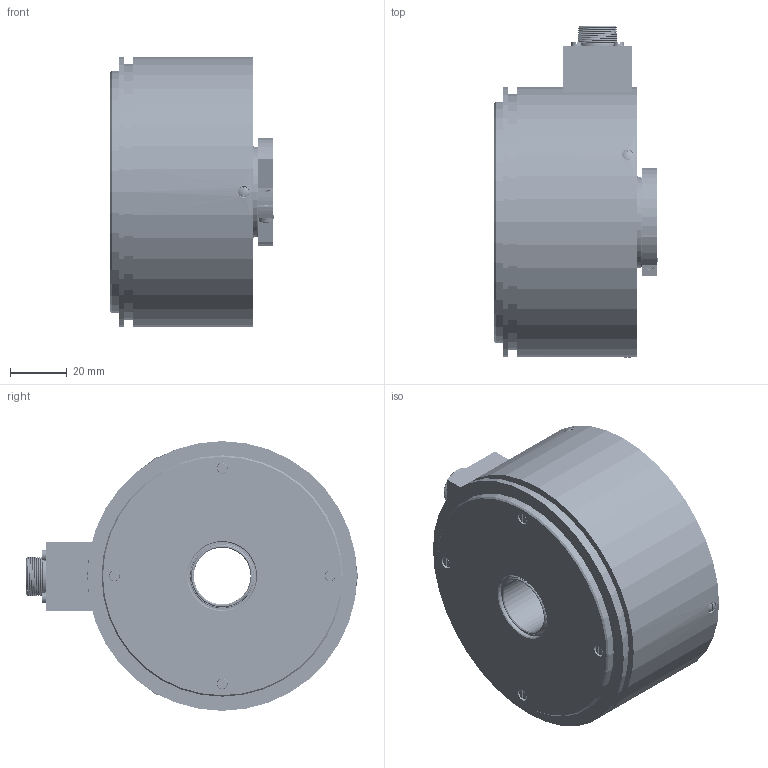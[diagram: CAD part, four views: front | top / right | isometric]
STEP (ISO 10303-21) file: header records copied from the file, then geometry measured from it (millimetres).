
FILE_DESCRIPTION (( 'STEP AP214' ), '1' );
FILE_NAME ('ËÈÐ-ÄÀ395À_èñï 1.STEP', '2017-05-23T08:57:23', ( '' ), ( '' ), 'SwSTEP 2.0', 'SolidWorks 2013', '' );
FILE_SCHEMA (( 'AUTOMOTIVE_DESIGN' ));
Length unit declared in the file: millimetre
Products named in the file (1): ËÈÐ-ÄÀ395À_èñï 1
Bounding box: 57.7 x 116.95 x 95 mm (x, y, z)
Volume: 183394.1 mm3; surface area: 143035.4 mm2
Topology: 64 solids, 64 shells, 4140 faces, 11323 edges, 7274 vertices
Faces by surface type: cone 1649, cylinder 1362, sphere 428, plane 426, torus 252, bspline 23
Entity records: 203200 total; most frequent: CARTESIAN_POINT 50340, DIRECTION 23479, ORIENTED_EDGE 22594, EDGE_CURVE 11297, AXIS2_PLACEMENT_3D 10052, VERTEX_POINT 7274, CIRCLE 5934, EDGE_LOOP 4545
